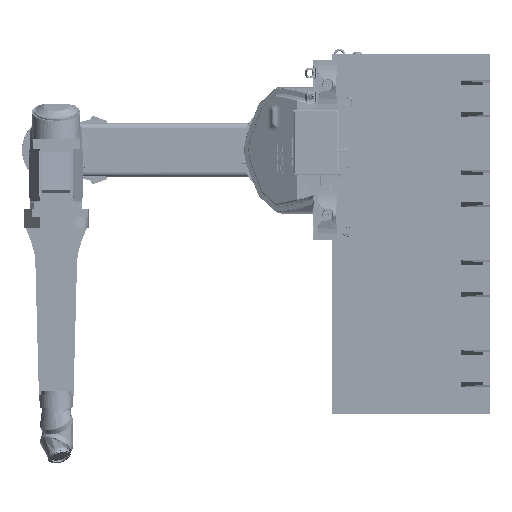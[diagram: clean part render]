
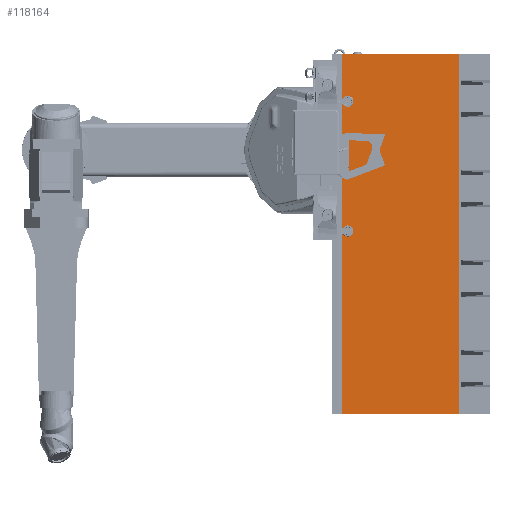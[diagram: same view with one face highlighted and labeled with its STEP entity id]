
A CAD part, left-side view. The second image highlights one B-rep face of the part: STEP entity #118164.
In plain terms, the highlighted planar face has unit normal (-1, 0, 0).
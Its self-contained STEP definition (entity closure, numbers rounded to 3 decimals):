
#5730 = CARTESIAN_POINT ( 'NONE',  ( -494., -999., -754. ) ) ;
#6615 = VECTOR ( 'NONE', #280336, 1000. ) ;
#12756 = ORIENTED_EDGE ( 'NONE', *, *, #211703, .T. ) ;
#28381 = FACE_OUTER_BOUND ( 'NONE', #222167, .T. ) ;
#33558 = CARTESIAN_POINT ( 'NONE',  ( -494., -999., -754. ) ) ;
#52844 = VECTOR ( 'NONE', #217291, 1000. ) ;
#59981 = ORIENTED_EDGE ( 'NONE', *, *, #91127, .T. ) ;
#60757 = LINE ( 'NONE', #165324, #52844 ) ;
#73914 = LINE ( 'NONE', #203821, #6615 ) ;
#81981 = CARTESIAN_POINT ( 'NONE',  ( -494., 999., -754. ) ) ;
#88710 = CARTESIAN_POINT ( 'NONE',  ( -494., -999., -754. ) ) ;
#91127 = EDGE_CURVE ( 'NONE', #256677, #240593, #237392, .T. ) ;
#94550 = ORIENTED_EDGE ( 'NONE', *, *, #238963, .T. ) ;
#100479 = EDGE_CURVE ( 'NONE', #240593, #116275, #204497, .T. ) ;
#102550 = VECTOR ( 'NONE', #185341, 1000. ) ;
#114297 = DIRECTION ( 'NONE',  ( 0., 0., 1. ) ) ;
#116275 = VERTEX_POINT ( 'NONE', #126822 ) ;
#118164 = ADVANCED_FACE ( 'NONE', ( #28381 ), #290578, .T. ) ;
#126822 = CARTESIAN_POINT ( 'NONE',  ( -494., 999., -104. ) ) ;
#129180 = VECTOR ( 'NONE', #192855, 1000. ) ;
#131081 = CARTESIAN_POINT ( 'NONE',  ( -494., -999., -104. ) ) ;
#165324 = CARTESIAN_POINT ( 'NONE',  ( -494., 999., -754. ) ) ;
#176627 = AXIS2_PLACEMENT_3D ( 'NONE', #88710, #266179, #114297 ) ;
#185341 = DIRECTION ( 'NONE',  ( 0., 0., 1. ) ) ;
#192855 = DIRECTION ( 'NONE',  ( 0., 1., 0. ) ) ;
#203821 = CARTESIAN_POINT ( 'NONE',  ( -494., -999., -754. ) ) ;
#204497 = LINE ( 'NONE', #319204, #129180 ) ;
#211703 = EDGE_CURVE ( 'NONE', #277407, #256677, #73914, .T. ) ;
#217291 = DIRECTION ( 'NONE',  ( 0., 0., -1. ) ) ;
#222167 = EDGE_LOOP ( 'NONE', ( #59981, #310029, #94550, #12756 ) ) ;
#237392 = LINE ( 'NONE', #33558, #102550 ) ;
#238963 = EDGE_CURVE ( 'NONE', #116275, #277407, #60757, .T. ) ;
#240593 = VERTEX_POINT ( 'NONE', #131081 ) ;
#256677 = VERTEX_POINT ( 'NONE', #5730 ) ;
#266179 = DIRECTION ( 'NONE',  ( -1., 0., 0. ) ) ;
#277407 = VERTEX_POINT ( 'NONE', #81981 ) ;
#280336 = DIRECTION ( 'NONE',  ( 0., -1., 0. ) ) ;
#290578 = PLANE ( 'NONE',  #176627 ) ;
#310029 = ORIENTED_EDGE ( 'NONE', *, *, #100479, .T. ) ;
#319204 = CARTESIAN_POINT ( 'NONE',  ( -494., -999., -104. ) ) ;
